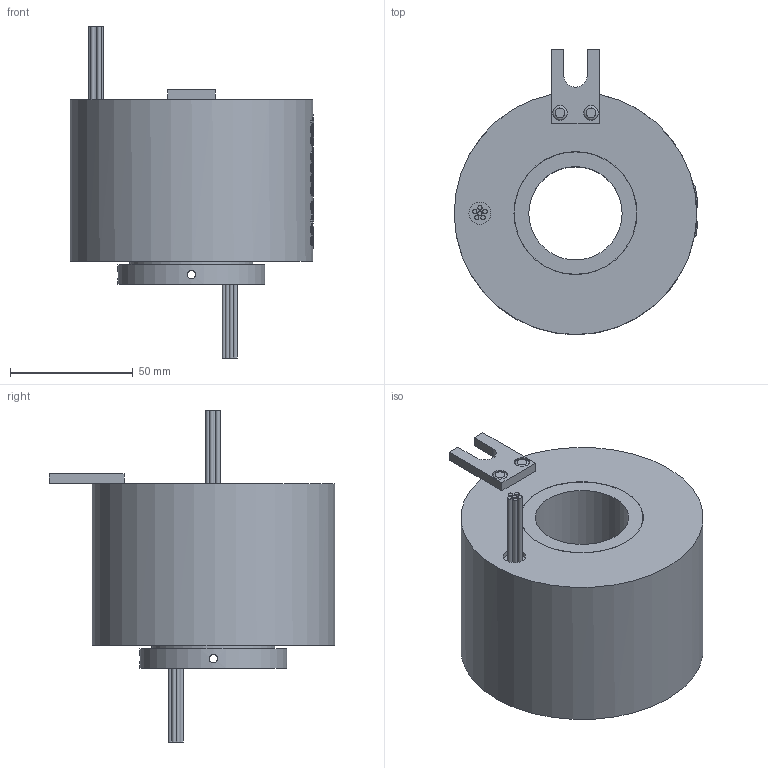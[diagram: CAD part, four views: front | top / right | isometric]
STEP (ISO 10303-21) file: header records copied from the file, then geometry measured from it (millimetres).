
FILE_DESCRIPTION(/* description */ (''),/* implementation_level */ '2;1');
FILE_NAME(/* name */ 'HDF3899-0610.stp',/* time_stamp */ '2025-01-19T11:31:37+08:00',/* author */ (''),/* organization */ (''),/* preprocessor_version */ 'ST-DEVELOPER v16.7',/* originating_system */ 'SIEMENS PLM Software NX 12.0',/* authorisation */ '');
FILE_SCHEMA (('AUTOMOTIVE_DESIGN { 1 0 10303 214 3 1 1 1 }'));
Length unit declared in the file: millimetre
Products named in the file (1): HX05089CE4B9bc4n
Bounding box: 99.42 x 116.5 x 135.5 mm (x, y, z)
Volume: 448507.4 mm3; surface area: 51967.2 mm2
Topology: 1 solids, 1 shells, 391 faces, 977 edges, 653 vertices
Faces by surface type: plane 221, extrusion 93, cylinder 46, bspline 29, torus 2
Full cylindrical faces by diameter (mm): 1.8 x12, 3.4 x4, 6 x2, 9 x1, 38.1 x1, 50 x2, 50.18 x1, 50.2 x2, 60 x1, 99 x1
Entity records: 33591 total; most frequent: CARTESIAN_POINT 25454, ORIENTED_EDGE 1860, DIRECTION 1147, EDGE_CURVE 930, B_SPLINE_CURVE_WITH_KNOTS 694, VERTEX_POINT 649, EDGE_LOOP 509, AXIS2_PLACEMENT_3D 455
